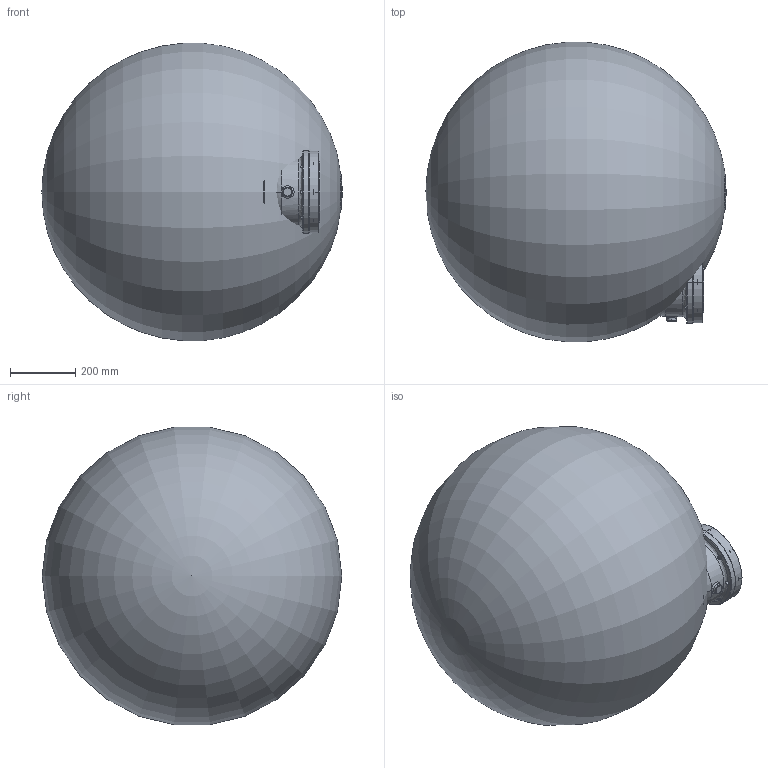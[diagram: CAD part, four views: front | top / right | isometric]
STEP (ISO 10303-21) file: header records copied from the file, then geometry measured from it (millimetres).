
FILE_DESCRIPTION (( 'STEP AP214' ), '1' );
FILE_NAME ('8P003500191.STEP', '2017-05-25T12:49:39', ( 'Negroni' ), ( 'Hewlett-Packard Company' ), 'SwSTEP 2.0', 'SolidWorks 2015', '' );
FILE_SCHEMA (( 'AUTOMOTIVE_DESIGN' ));
Length unit declared in the file: millimetre
Products named in the file (1): 8P003500191
Bounding box: 918.1 x 916.05 x 909.38 mm (x, y, z)
Volume: 392965970 mm3; surface area: 3315619 mm2
Topology: 1 solids, 1 shells, 2334 faces, 6050 edges, 3716 vertices
Faces by surface type: plane 875, bspline 602, cylinder 425, cone 383, torus 37, sphere 12
Entity records: 126935 total; most frequent: CARTESIAN_POINT 61244, ORIENTED_EDGE 11794, DIRECTION 8549, EDGE_CURVE 5897, VERTEX_POINT 3692, AXIS2_PLACEMENT_3D 3069, EDGE_LOOP 2517, LINE 2411
